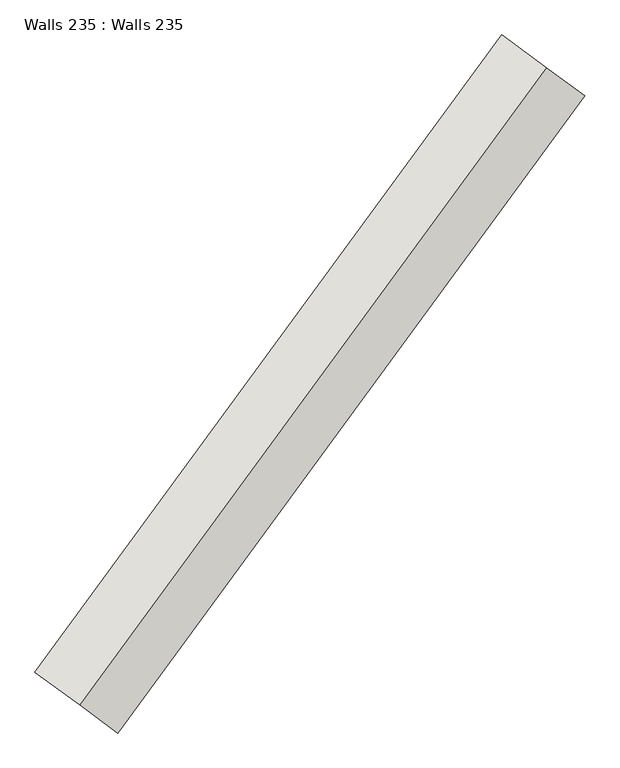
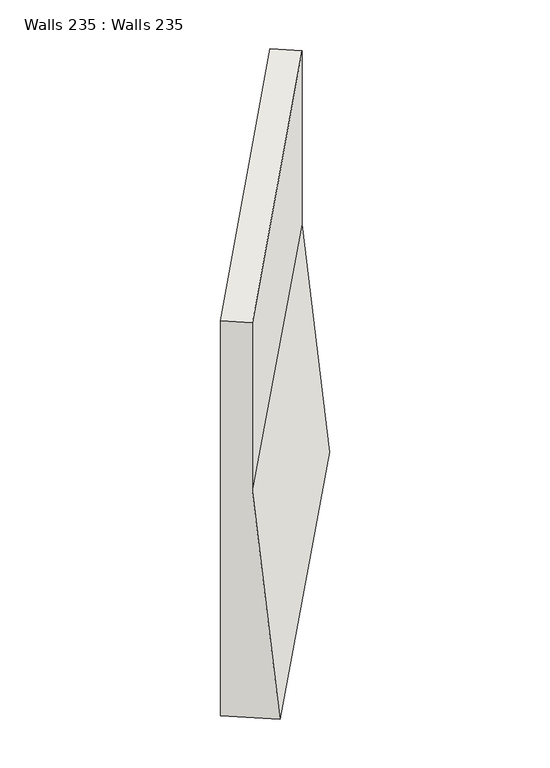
"""IFC4 building model written with IfcOpenShell, lengths in millimetres: wall geometry, Walls 235 : Walls 235."""

from ifc_helpers import new_model, si_unit, origin, place, context, project, spatial, faceted_brep, source, transform, mapped, element, save


def walls_235_walls_235_1669a2b6(model_context):
    return source(origin(), model_context, "Body", "Brep", [
        faceted_brep([(453205.7863802, 340874.3786991, 646948.0), (452963.7758901, 341051.6663826, 649948.0), (452963.7758901, 341051.6663826, 652186.5), (452681.4303184, 341258.5020133, 652186.5), (452681.4303184, 341258.5020133, 646948.0), (456160.5706661, 344907.8726165, 647010.8), (455636.2146043, 345291.9959307, 647010.8), (455636.2146043, 345291.9959307, 652310.8), (455918.5601761, 345085.1603, 652310.8), (455918.5601761, 345085.1603, 650010.8)], [[[0, 1, 2, 3, 4]], [[5, 6, 7, 8, 9]], [[5, 9, 1, 0]], [[9, 8, 2, 1]], [[8, 7, 3, 2]], [[7, 6, 4, 3]], [[6, 5, 0, 4]]]),
    ])


if __name__ == "__main__":
    model = new_model("IFC4")
    model_context = context("Model", 3, world=origin())
    ifc_project = project(units=[si_unit("LENGTHUNIT", "METRE", prefix="MILLI")], contexts=[model_context])
    site = spatial("IfcSite", under=ifc_project)
    building = spatial("IfcBuilding", under=site)
    placement = place(None, origin())
    walls_235_walls_235_shape = walls_235_walls_235_1669a2b6(model_context)
    element("IfcWall", 1, ObjectType="Walls 235 : Walls 235", at=placement, inside=building, context=model_context, shape_type="MappedRepresentation", body=[
        mapped(walls_235_walls_235_shape, transform((0.0, 0.0, 0.0), x_axis=(1.0, 0.0, 0.0), y_axis=(0.0, 1.0, 0.0), z_axis=(0.0, 0.0, 1.0))),
    ])
    save(model, "model.ifc")
